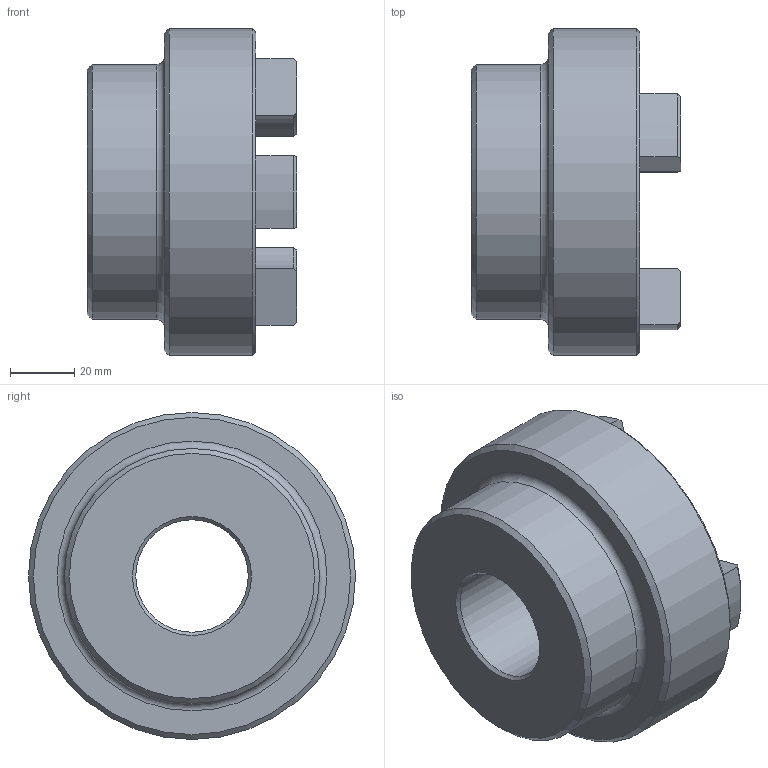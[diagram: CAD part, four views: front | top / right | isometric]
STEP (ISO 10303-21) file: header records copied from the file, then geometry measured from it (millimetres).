
FILE_DESCRIPTION (( 'STEP AP203' ), '1' );
FILE_NAME ('RC4.step', '2024-07-24T17:40:49', ( 'Adlan' ), ( '' ), 'SwSTEP 2.0', 'SolidWorks 2013', '' );
FILE_SCHEMA (( 'CONFIG_CONTROL_DESIGN' ));
Length unit declared in the file: inch
Products named in the file (1): RC4
Bounding box: 65.02 x 101.6 x 101.6 mm (x, y, z)
Volume: 244377.3 mm3; surface area: 40476.5 mm2
Topology: 1 solids, 1 shells, 60 faces, 146 edges, 90 vertices
Faces by surface type: cylinder 24, plane 13, torus 13, cone 10
Full cylindrical faces by diameter (mm): 34.938 x1, 79.248 x1, 101.6 x1
Entity records: 1841 total; most frequent: CARTESIAN_POINT 341, DIRECTION 324, ORIENTED_EDGE 274, EDGE_CURVE 137, AXIS2_PLACEMENT_3D 132, VERTEX_POINT 89, EDGE_LOOP 72, CIRCLE 71
